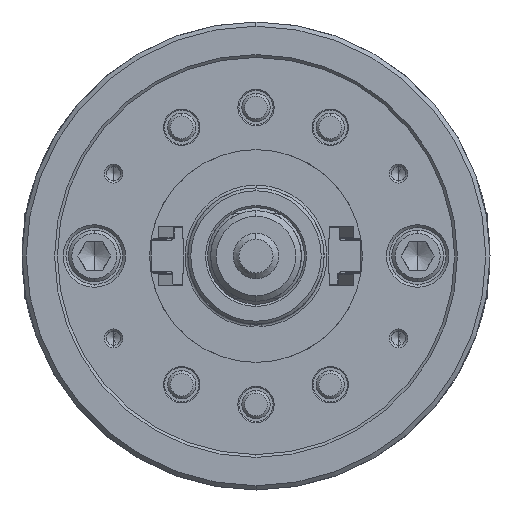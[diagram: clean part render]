
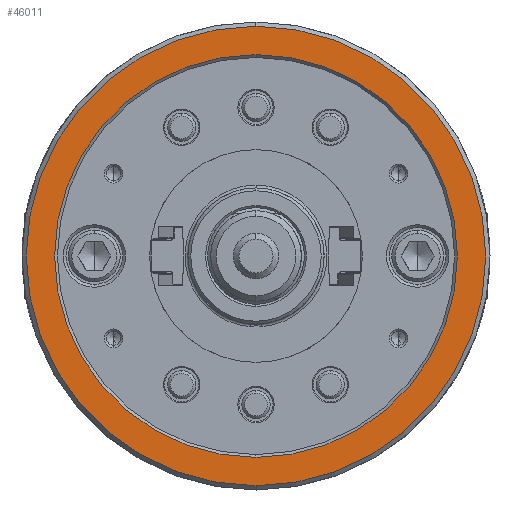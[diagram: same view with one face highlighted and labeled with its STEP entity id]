
A CAD part, left-side view. The second image highlights one B-rep face of the part: STEP entity #46011.
In plain terms, the highlighted planar face has unit normal (-1, 0, 0).
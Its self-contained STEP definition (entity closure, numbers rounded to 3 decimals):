
#1251 = DIRECTION ( 'NONE',  ( 0., 0., -1. ) ) ;
#2084 = FACE_OUTER_BOUND ( 'NONE', #73160, .T. ) ;
#5569 = DIRECTION ( 'NONE',  ( 0., 0., -1. ) ) ;
#7237 = CARTESIAN_POINT ( 'NONE',  ( -74., 0., 0. ) ) ;
#7437 = ORIENTED_EDGE ( 'NONE', *, *, #57440, .T. ) ;
#8944 = CARTESIAN_POINT ( 'NONE',  ( -74., 0., -71. ) ) ;
#18413 = VERTEX_POINT ( 'NONE', #8944 ) ;
#19052 = DIRECTION ( 'NONE',  ( 1., 0., 0. ) ) ;
#20453 = AXIS2_PLACEMENT_3D ( 'NONE', #71122, #32773, #58097 ) ;
#21724 = CIRCLE ( 'NONE', #24391, 81. ) ;
#24391 = AXIS2_PLACEMENT_3D ( 'NONE', #61246, #29119, #41391 ) ;
#27818 = FACE_BOUND ( 'NONE', #50531, .T. ) ;
#29119 = DIRECTION ( 'NONE',  ( 1., 0., 0. ) ) ;
#30509 = DIRECTION ( 'NONE',  ( 1., 0., 0. ) ) ;
#31738 = EDGE_CURVE ( 'NONE', #56982, #58831, #21724, .T. ) ;
#32744 = CARTESIAN_POINT ( 'NONE',  ( -74., 0., 71. ) ) ;
#32773 = DIRECTION ( 'NONE',  ( 1., 0., 0. ) ) ;
#33099 = ORIENTED_EDGE ( 'NONE', *, *, #59297, .F. ) ;
#41391 = DIRECTION ( 'NONE',  ( 0., 0., -1. ) ) ;
#42978 = ORIENTED_EDGE ( 'NONE', *, *, #44215, .T. ) ;
#44215 = EDGE_CURVE ( 'NONE', #81019, #18413, #45664, .T. ) ;
#45664 = CIRCLE ( 'NONE', #52402, 71. ) ;
#46011 = ADVANCED_FACE ( 'NONE', ( #2084, #27818 ), #59103, .F. ) ;
#48480 = CARTESIAN_POINT ( 'NONE',  ( -74., 0., 81. ) ) ;
#49470 = CARTESIAN_POINT ( 'NONE',  ( -74., 0., -81. ) ) ;
#50531 = EDGE_LOOP ( 'NONE', ( #42978, #7437 ) ) ;
#52402 = AXIS2_PLACEMENT_3D ( 'NONE', #55025, #30509, #56257 ) ;
#53585 = CARTESIAN_POINT ( 'NONE',  ( -74., -81., 0. ) ) ;
#55025 = CARTESIAN_POINT ( 'NONE',  ( -74., 0., 0. ) ) ;
#56257 = DIRECTION ( 'NONE',  ( 0., 0., -1. ) ) ;
#56982 = VERTEX_POINT ( 'NONE', #49470 ) ;
#57440 = EDGE_CURVE ( 'NONE', #18413, #81019, #58178, .T. ) ;
#58097 = DIRECTION ( 'NONE',  ( 0., 0., -1. ) ) ;
#58178 = CIRCLE ( 'NONE', #20453, 71. ) ;
#58831 = VERTEX_POINT ( 'NONE', #48480 ) ;
#59103 = PLANE ( 'NONE',  #79502 ) ;
#59297 = EDGE_CURVE ( 'NONE', #58831, #56982, #71837, .T. ) ;
#59764 = AXIS2_PLACEMENT_3D ( 'NONE', #7237, #19052, #5569 ) ;
#61246 = CARTESIAN_POINT ( 'NONE',  ( -74., 0., 0. ) ) ;
#71122 = CARTESIAN_POINT ( 'NONE',  ( -74., 0., 0. ) ) ;
#71837 = CIRCLE ( 'NONE', #59764, 81. ) ;
#73006 = DIRECTION ( 'NONE',  ( 1., 0., 0. ) ) ;
#73160 = EDGE_LOOP ( 'NONE', ( #83036, #33099 ) ) ;
#79502 = AXIS2_PLACEMENT_3D ( 'NONE', #53585, #73006, #1251 ) ;
#81019 = VERTEX_POINT ( 'NONE', #32744 ) ;
#83036 = ORIENTED_EDGE ( 'NONE', *, *, #31738, .F. ) ;
